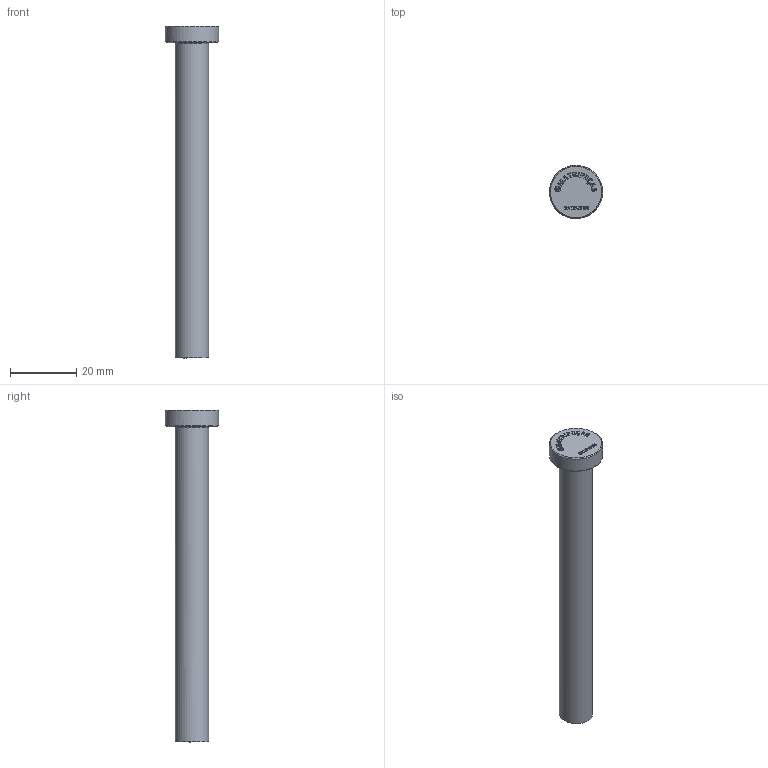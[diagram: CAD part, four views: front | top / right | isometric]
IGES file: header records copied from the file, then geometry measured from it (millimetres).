
Start section: C
Global section: file name: DATAL10100.igs; native system: By Siemens PLM Incorporated; preprocessor: XPlus GENERIC/IGES 18.0.17; author: Author; organization: Title; date: 20240719.105351; units: millimetre
Bounding box: 15.99 x 16 x 100 mm (x, y, z)
Volume: 8405.3 mm3; surface area: 3645.8 mm2
Topology: 1 solids, 1 shells, 334 faces, 865 edges, 568 vertices
Faces by surface type: bspline 334
